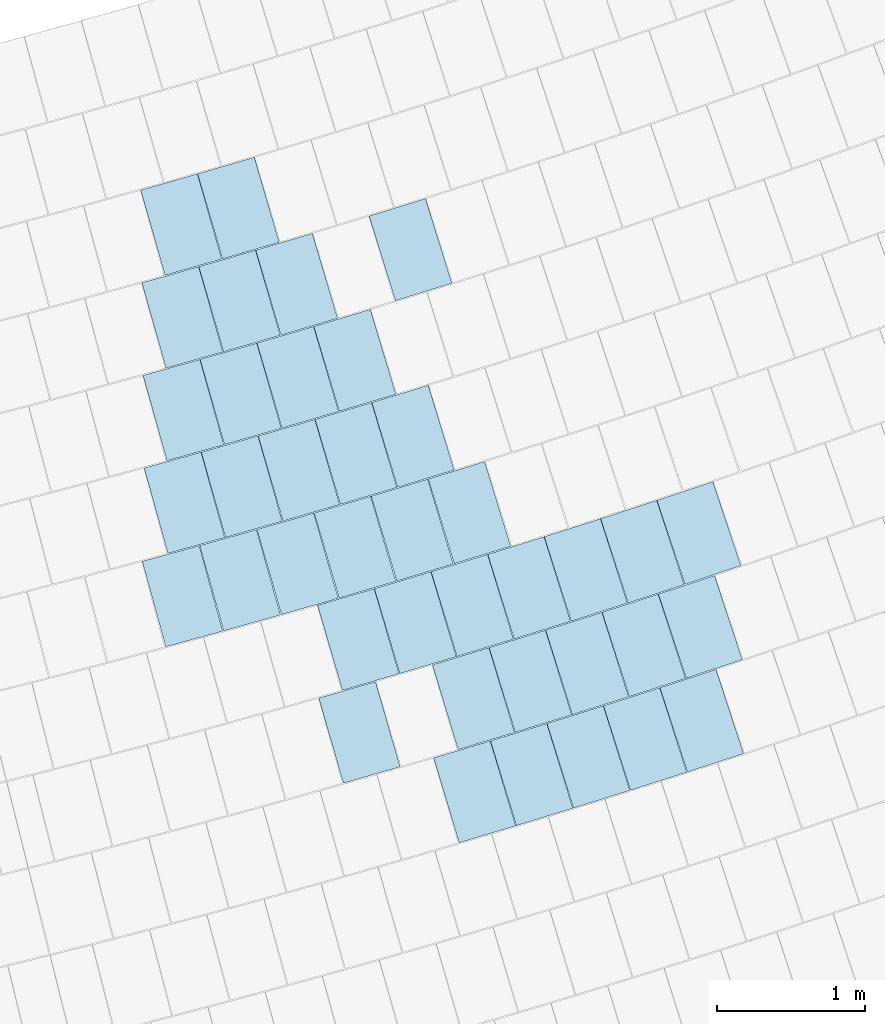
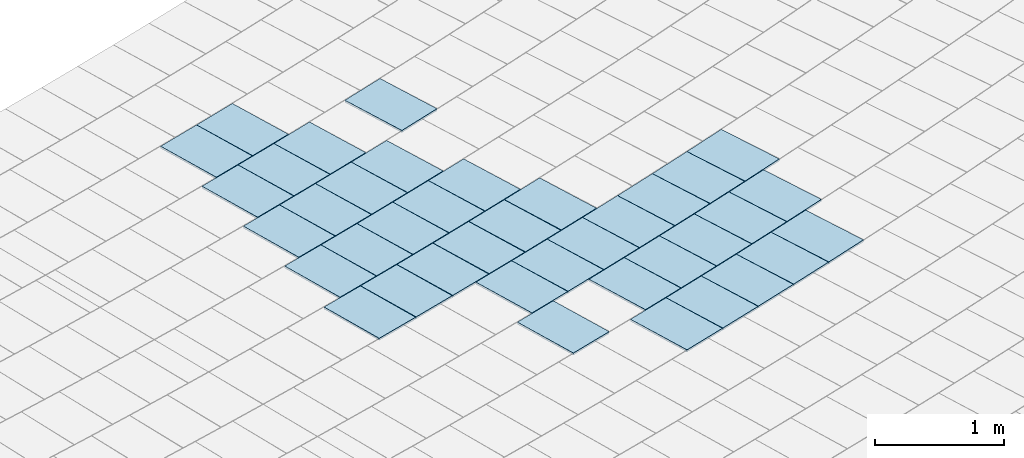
# One storey, part 61 of 438: 39 slabs.
"""IFC2X3 building model written with IfcOpenShell, lengths in millimetres."""

import ifcopenshell
import ifcopenshell.guid

model = None  # the IFC model being written
_history = None  # IfcOwnerHistory: only IFC2X3 demands one
_inside = {}  # id of a spatial element -> (the spatial element, [elements in it])
_under = {}  # id of a project, library or spatial element -> (it, [spatial elements below it])
_declared = {}  # id of a project -> (the project, [libraries it declares])
_typed = {}  # id of a type object -> (the type object, [elements of that type])
_made_of = {}  # id of a material, layer set ... -> (it, [elements and type objects made of it])


def new_model(schema):
    """Start an empty IFC model of exactly this schema.

    Asked for "IFC4X3", IfcOpenShell would pick the latest addendum, in which some entities
    have other attributes; the version numbers below select the first issue.
    IFC2X3 requires an IfcOwnerHistory on every rooted entity: one is made here for all.
    """
    global model, _history
    if schema == "IFC4X3":
        model = ifcopenshell.file(schema_version=(4, 3, 0, 0))
    else:
        model = ifcopenshell.file(schema=schema)
    _inside.clear()
    _under.clear()
    _declared.clear()
    _typed.clear()
    _made_of.clear()
    _history = None
    if model.schema == "IFC2X3":
        org = make("IfcOrganization", Name="unknown")
        user = make(
            "IfcPersonAndOrganization",
            ThePerson=make("IfcPerson", FamilyName="unknown"),
            TheOrganization=org,
        )
        app = make(
            "IfcApplication",
            ApplicationDeveloper=org,
            Version="unknown",
            ApplicationFullName="unknown",
            ApplicationIdentifier="unknown",
        )
        _history = make(
            "IfcOwnerHistory",
            OwningUser=user,
            OwningApplication=app,
            ChangeAction="ADDED",
            CreationDate=0,
        )
    return model


def make(cls, **values):
    """One entity of the class cls with the attributes given. An attribute that is None is left unset."""
    return model.create_entity(
        cls, **{name: value for name, value in values.items() if value is not None}
    )


def entity(cls, *values):
    """Any entity or typed value of the class cls, its attributes in the order of the schema. None: left unset."""
    e = model.create_entity(cls)
    for i, value in enumerate(values):
        if value is not None:
            e[i] = value
    return e


def rooted(cls, **values):
    """An entity with a GlobalId (a new one), such as an element, a storey or a relation."""
    return make(cls, GlobalId=ifcopenshell.guid.new(), OwnerHistory=_history, **values)


def si_unit(unit_type, name, prefix=None):
    """IfcSIUnit, for example si_unit("LENGTHUNIT", "METRE", prefix="MILLI")."""
    return make("IfcSIUnit", UnitType=unit_type, Prefix=prefix, Name=name)


def converted_unit(unit_type, name, factor, base, dimensions=None, offset=None):
    """IfcConversionBasedUnit, such as the inch: factor (a typed value) times the base unit."""
    return make(
        "IfcConversionBasedUnit"
        if offset is None
        else "IfcConversionBasedUnitWithOffset",
        ConversionOffset=offset,
        Dimensions=None
        if dimensions is None
        else entity("IfcDimensionalExponents", *dimensions),
        UnitType=unit_type,
        Name=name,
        ConversionFactor=make(
            "IfcMeasureWithUnit", ValueComponent=factor, UnitComponent=base
        ),
    )


def derived_unit(unit_type, elements):
    """IfcDerivedUnit: a product of units, each with its exponent."""
    return make(
        "IfcDerivedUnit",
        Elements=[
            make("IfcDerivedUnitElement", Unit=unit, Exponent=power)
            for unit, power in elements
        ],
        UnitType=unit_type,
    )


def assignment(units):
    """IfcUnitAssignment: the units of a project."""
    return None if units is None else make("IfcUnitAssignment", Units=units)


def point(xyz):
    """IfcCartesianPoint."""
    return None if xyz is None else make("IfcCartesianPoint", Coordinates=xyz)


def direction(xyz):
    """IfcDirection."""
    return None if xyz is None else make("IfcDirection", DirectionRatios=xyz)


def frame(location, z_axis=None, x_axis=None):
    """IfcAxis2Placement3D, a coordinate frame: its origin and axes. An axis left out is left unset."""
    return make(
        "IfcAxis2Placement3D",
        Location=point(location),
        Axis=direction(z_axis),
        RefDirection=direction(x_axis),
    )


def origin():
    """The frame at (0, 0, 0) with its axes left unset."""
    return frame((0.0, 0.0, 0.0))


def place(relative_to, where):
    """IfcLocalPlacement: puts the frame where relative to a parent placement (None: the world)."""
    return make(
        "IfcLocalPlacement", PlacementRelTo=relative_to, RelativePlacement=where
    )


def context(
    kind, dimensions, precision=None, world=None, true_north=None, identifier=None
):
    """IfcGeometricRepresentationContext, for example the 3D "Model" context."""
    return make(
        "IfcGeometricRepresentationContext",
        ContextIdentifier=identifier,
        ContextType=kind,
        CoordinateSpaceDimension=dimensions,
        Precision=precision,
        WorldCoordinateSystem=world,
        TrueNorth=true_north,
    )


def subcontext(parent, identifier, kind, view, scale=None):
    """IfcGeometricRepresentationSubContext, for example "Body" below "Model"."""
    return make(
        "IfcGeometricRepresentationSubContext",
        ContextIdentifier=identifier,
        ContextType=kind,
        ParentContext=parent,
        TargetScale=scale,
        TargetView=view,
    )


def project(units=None, contexts=None):
    """IfcProject with its units and contexts."""
    return rooted(
        "IfcProject",
        Name="project",
        RepresentationContexts=contexts,
        UnitsInContext=assignment(units),
    )


def spatial(cls, under=None, at=None, **own):
    """A site, building, storey or space (cls), placed at a placement, below another one or the project."""
    s = rooted(cls, ObjectPlacement=at, **own)
    if under is not None:
        _under.setdefault(under.id(), (under, []))[1].append(s)
    return s


def polyline(points):
    """IfcPolyline through the points."""
    return make("IfcPolyline", Points=[point(p) for p in points])


def outline(outer, holes=None, kind="AREA"):
    """IfcArbitraryClosedProfileDef: a profile drawn as a closed curve; with holes, ...WithVoids."""
    if holes is None:
        return make("IfcArbitraryClosedProfileDef", ProfileType=kind, OuterCurve=outer)
    return make(
        "IfcArbitraryProfileDefWithVoids",
        ProfileType=kind,
        OuterCurve=outer,
        InnerCurves=holes,
    )


def extrude(swept, where, along, depth):
    """IfcExtrudedAreaSolid: the profile swept, set in the frame where, extruded along a direction by depth."""
    return make(
        "IfcExtrudedAreaSolid",
        SweptArea=swept,
        Position=where,
        ExtrudedDirection=direction(along),
        Depth=depth,
    )


def shape(context_of_items, identifier, shape_type, items):
    """IfcShapeRepresentation: the items that make up one representation, for example the "Body"."""
    return make(
        "IfcShapeRepresentation",
        ContextOfItems=context_of_items,
        RepresentationIdentifier=identifier,
        RepresentationType=shape_type,
        Items=items,
    )


def material(Name=None, Category=None):
    """IfcMaterial."""
    return make("IfcMaterial", Name=Name, Category=Category)


def layer(
    of_material, thickness, ventilated=None, Name=None, Category=None, Priority=None
):
    """IfcMaterialLayer: one layer of a wall or slab, of a material (None: an air gap)."""
    return make(
        "IfcMaterialLayer",
        Material=of_material,
        LayerThickness=thickness,
        IsVentilated=ventilated,
        Name=Name,
        Category=Category,
        Priority=Priority,
    )


def layer_set(layers, Name=None):
    """IfcMaterialLayerSet."""
    return make("IfcMaterialLayerSet", MaterialLayers=layers, LayerSetName=Name)


def layer_usage(for_layer_set, set_direction, sense, offset, extent=None):
    """IfcMaterialLayerSetUsage: how a layer set lies in its element."""
    return make(
        "IfcMaterialLayerSetUsage",
        ForLayerSet=for_layer_set,
        LayerSetDirection=set_direction,
        DirectionSense=sense,
        OffsetFromReferenceLine=offset,
        ReferenceExtent=extent,
    )


def made_of(thing, what):
    """Note that an element or type object is made of a material, layer set ...; save() writes the relation."""
    if what is not None:
        _made_of.setdefault(what.id(), (what, []))[1].append(thing)
    return thing


def type_object(cls, material=None, **own):
    """A type object (cls), such as IfcWallType, which elements share."""
    return made_of(rooted(cls, **own), material)


def element(
    cls,
    number,
    at=None,
    inside=None,
    cuts=None,
    type_object=None,
    material=None,
    context=None,
    identifier="Body",
    shape_type=None,
    held_by="IfcProductDefinitionShape",
    body=None,
    shapes=None,
    **own,
):
    """One element of the class cls, such as IfcWall. Its Tag is "e" and its number.

    at: its placement. inside: the storey or other place that contains it. cuts: it is an
    opening in that element (IfcRelVoidsElement). A single representation is given by context,
    identifier, shape_type and body (its items); several are given by shapes. held_by: the class
    of the entity that holds the representations. save() writes the other relations.
    """
    e = rooted(cls, Tag="e%d" % number, ObjectPlacement=at, **own)
    if body is not None:
        shapes = [shape(context, identifier, shape_type, body)]
    if shapes is not None:
        e.Representation = make(held_by, Representations=shapes)
    if inside is not None:
        _inside.setdefault(inside.id(), (inside, []))[1].append(e)
    if cuts is not None:
        rooted(
            "IfcRelVoidsElement", RelatingBuildingElement=cuts, RelatedOpeningElement=e
        )
    if type_object is not None:
        _typed.setdefault(type_object.id(), (type_object, []))[1].append(e)
    return made_of(e, material)


def aggregate(whole, parts):
    """IfcRelAggregates: a whole, such as a stair, and the parts it consists of."""
    return rooted("IfcRelAggregates", RelatingObject=whole, RelatedObjects=parts)


def save(model, path):
    """Write the relations noted so far, then the file.

    IfcRelAggregates (storeys below a building ...), IfcRelContainedInSpatialStructure (elements
    in a storey), IfcRelDefinesByType, IfcRelAssociatesMaterial and IfcRelDeclares: one each for
    every whole, place, type object, material and project.
    """
    for whole, parts in _under.values():
        aggregate(whole, parts)
    for where, things in _inside.values():
        rooted(
            "IfcRelContainedInSpatialStructure",
            RelatedElements=things,
            RelatingStructure=where,
        )
    for kind, things in _typed.values():
        rooted("IfcRelDefinesByType", RelatedObjects=things, RelatingType=kind)
    for what, things in _made_of.values():
        rooted("IfcRelAssociatesMaterial", RelatedObjects=things, RelatingMaterial=what)
    for by, libraries in _declared.values():
        rooted("IfcRelDeclares", RelatingContext=by, RelatedDefinitions=libraries)
    model.write(path)


model = new_model("IFC2X3")

# Units and contexts
model_context = context("Model", 3, precision=0.01, world=origin(), true_north=direction((6.123031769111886e-17, 1.0)))
body_context = subcontext(model_context, "Body", "Model", "MODEL_VIEW")
ifc_project = project(units=[si_unit("LENGTHUNIT", "METRE", prefix="MILLI"), si_unit("AREAUNIT", "SQUARE_METRE"), si_unit("VOLUMEUNIT", "CUBIC_METRE"), converted_unit("PLANEANGLEUNIT", "DEGREE", entity("IfcRatioMeasure", 0.017453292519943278), si_unit("PLANEANGLEUNIT", "RADIAN"), dimensions=[0, 0, 0, 0, 0, 0, 0]), si_unit("MASSUNIT", "GRAM", prefix="KILO"), derived_unit("MASSDENSITYUNIT", [(si_unit("MASSUNIT", "GRAM", prefix="KILO"), 1), (si_unit("LENGTHUNIT", "METRE"), -3)]), derived_unit("MOMENTOFINERTIAUNIT", [(si_unit("LENGTHUNIT", "METRE"), 4)]), si_unit("TIMEUNIT", "SECOND"), si_unit("FREQUENCYUNIT", "HERTZ"), si_unit("THERMODYNAMICTEMPERATUREUNIT", "DEGREE_CELSIUS"), derived_unit("THERMALTRANSMITTANCEUNIT", [(si_unit("MASSUNIT", "GRAM", prefix="KILO"), 1), (si_unit("THERMODYNAMICTEMPERATUREUNIT", "KELVIN"), -1), (si_unit("TIMEUNIT", "SECOND"), -3)]), derived_unit("THERMALCONDUCTANCEUNIT", [(si_unit("MASSUNIT", "GRAM", prefix="KILO"), 1), (si_unit("LENGTHUNIT", "METRE"), 1), (si_unit("THERMODYNAMICTEMPERATUREUNIT", "KELVIN"), -1), (si_unit("TIMEUNIT", "SECOND"), -3)]), derived_unit("VOLUMETRICFLOWRATEUNIT", [(si_unit("LENGTHUNIT", "METRE"), 3), (si_unit("TIMEUNIT", "SECOND"), -1)]), derived_unit("MASSFLOWRATEUNIT", [(si_unit("MASSUNIT", "GRAM", prefix="KILO"), 1), (si_unit("TIMEUNIT", "SECOND"), -1)]), derived_unit("ROTATIONALFREQUENCYUNIT", [(si_unit("TIMEUNIT", "SECOND"), -1)]), si_unit("ELECTRICCURRENTUNIT", "AMPERE"), si_unit("ELECTRICVOLTAGEUNIT", "VOLT"), si_unit("POWERUNIT", "WATT"), converted_unit("FORCEUNIT", "KIP", entity("IfcRatioMeasure", 2.088543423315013e-05), si_unit("FORCEUNIT", "NEWTON"), dimensions=[1, 1, -2, 0, 0, 0, 0]), si_unit("ILLUMINANCEUNIT", "LUX"), si_unit("LUMINOUSFLUXUNIT", "LUMEN"), si_unit("LUMINOUSINTENSITYUNIT", "CANDELA"), derived_unit("USERDEFINED", [(si_unit("MASSUNIT", "GRAM", prefix="KILO"), -1), (si_unit("LENGTHUNIT", "METRE"), -2), (si_unit("TIMEUNIT", "SECOND"), 3), (si_unit("LUMINOUSFLUXUNIT", "LUMEN"), 1)]), derived_unit("USERDEFINED", [(si_unit("MASSUNIT", "GRAM", prefix="KILO"), 1), (si_unit("LENGTHUNIT", "METRE"), 3), (si_unit("TIMEUNIT", "SECOND"), -3), (si_unit("ELECTRICCURRENTUNIT", "AMPERE"), -2)]), derived_unit("USERDEFINED", [(si_unit("LENGTHUNIT", "METRE"), 2), (si_unit("TIMEUNIT", "SECOND"), -2)]), derived_unit("SOUNDPOWERUNIT", [(si_unit("MASSUNIT", "GRAM", prefix="KILO"), 1), (si_unit("LENGTHUNIT", "METRE"), 2), (si_unit("TIMEUNIT", "SECOND"), -3)]), derived_unit("SOUNDPRESSUREUNIT", [(si_unit("MASSUNIT", "GRAM", prefix="KILO"), 1), (si_unit("LENGTHUNIT", "METRE"), -1), (si_unit("TIMEUNIT", "SECOND"), -2)]), derived_unit("LINEARVELOCITYUNIT", [(si_unit("LENGTHUNIT", "METRE"), 1), (si_unit("TIMEUNIT", "SECOND"), -1)]), si_unit("PRESSUREUNIT", "PASCAL"), derived_unit("USERDEFINED", [(si_unit("LENGTHUNIT", "METRE"), -2), (si_unit("MASSUNIT", "GRAM", prefix="KILO"), 1), (si_unit("TIMEUNIT", "SECOND"), -2)]), derived_unit("LINEARFORCEUNIT", [(si_unit("MASSUNIT", "GRAM", prefix="KILO"), 1), (si_unit("LENGTHUNIT", "METRE"), 1), (si_unit("TIMEUNIT", "SECOND"), -2), (si_unit("LENGTHUNIT", "METRE"), -1)]), derived_unit("PLANARFORCEUNIT", [(si_unit("MASSUNIT", "GRAM", prefix="KILO"), 1), (si_unit("LENGTHUNIT", "METRE"), 1), (si_unit("TIMEUNIT", "SECOND"), -2), (si_unit("LENGTHUNIT", "METRE"), -2)]), derived_unit("SPECIFICHEATCAPACITYUNIT", [(si_unit("LENGTHUNIT", "METRE"), 2), (si_unit("TIMEUNIT", "SECOND"), -2), (si_unit("THERMODYNAMICTEMPERATUREUNIT", "KELVIN"), -1)]), derived_unit("VAPORPERMEABILITYUNIT", [(si_unit("TIMEUNIT", "SECOND"), 1), (si_unit("LENGTHUNIT", "METRE"), -1)]), derived_unit("DYNAMICVISCOSITYUNIT", [(si_unit("MASSUNIT", "GRAM", prefix="KILO"), 1), (si_unit("LENGTHUNIT", "METRE"), -1), (si_unit("TIMEUNIT", "SECOND"), -1)]), derived_unit("THERMALEXPANSIONCOEFFICIENTUNIT", [(si_unit("THERMODYNAMICTEMPERATUREUNIT", "KELVIN"), -1)])], contexts=[model_context])

# Site, building, storey
site_placement = place(None, frame((0.0, 0.0, 0.0), z_axis=(0.0, 0.0, 1.0), x_axis=(0.8191520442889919, 0.5735764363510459, 0.0)))
site = spatial("IfcSite", under=ifc_project, at=site_placement, Name="Default", CompositionType="ELEMENT")
building_placement = place(site_placement, origin())
building = spatial("IfcBuilding", under=site, at=building_placement, CompositionType="ELEMENT")
storey_placement = place(building_placement, origin())
storey = spatial("IfcBuildingStorey", under=building, at=storey_placement, Name="PLAN", CompositionType="ELEMENT", Elevation=0.0)

# Slabs
ifc_material = material(Name="Paint-01")
ifc_layer = layer(ifc_material, 20.00000000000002)
ifc_layer_set = layer_set([ifc_layer], Name="Floor:Slab-179:1000")
ifc_layer_usage = layer_usage(ifc_layer_set, "AXIS3", "POSITIVE", 0.0)
slab_type = type_object("IfcSlabType", Name="Floor:Slab-179:1000", PredefinedType="FLOOR", material=ifc_layer_set)
slab_1_placement = place(storey_placement, origin())
element("IfcSlab", 1, at=slab_1_placement, inside=storey, type_object=slab_type, material=ifc_layer_usage, Name="Floor:Slab-179:1000", ObjectType="Floor:Slab-179:1000", PredefinedType="FLOOR", context=body_context, shape_type="SweptSolid", body=[
    extrude(outline(polyline([(-300.0000010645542, -200.00000294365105), (299.9999989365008, -200.00000294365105), (300.0000010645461, 200.0000029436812), (-299.99999893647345, 200.00000294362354), (-300.0000010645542, -200.00000294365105)])), frame((-59989.401130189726, -126128.34752356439, 20.0), z_axis=(0.0, 0.0, -1.0), x_axis=(-0.32023587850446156, -0.9473378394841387, 0.0)), (0.0, 0.0, 1.0), 20.00000000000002),
])
slab_2_placement = place(storey_placement, origin())
element("IfcSlab", 2, at=slab_2_placement, inside=storey, type_object=slab_type, material=ifc_layer_usage, Name="Floor:Slab-179:1000", ObjectType="Floor:Slab-179:1000", PredefinedType="FLOOR", context=body_context, shape_type="SweptSolid", body=[
    extrude(outline(polyline([(-300.00000106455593, -200.00000294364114), (299.9999989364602, -200.0000029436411), (300.0000010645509, 200.00000294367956), (-299.9999989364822, 200.0000029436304), (-300.00000106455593, -200.00000294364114)])), frame((-60369.77105779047, -125998.3796156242, 20.0), z_axis=(0.0, 0.0, -1.0), x_axis=(-0.3264293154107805, -0.945221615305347, 0.0)), (0.0, 0.0, 1.0), 20.000000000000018),
])
slab_3_placement = place(storey_placement, origin())
element("IfcSlab", 3, at=slab_3_placement, inside=storey, type_object=slab_type, material=ifc_layer_usage, Name="Floor:Slab-179:1000", ObjectType="Floor:Slab-179:1000", PredefinedType="FLOOR", context=body_context, shape_type="SweptSolid", body=[
    extrude(outline(polyline([(-300.0000010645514, -200.00000294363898), (299.99999893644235, -200.00000294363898), (300.0000010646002, 200.00000294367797), (-299.99999893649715, 200.0000029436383), (-300.0000010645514, -200.00000294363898)])), frame((-59198.32049391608, -127025.24854212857, 20.0), z_axis=(0.0, 0.0, -1.0), x_axis=(-0.30435675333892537, -0.9525581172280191, 0.0)), (0.0, 0.0, 1.0), 20.00000000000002),
])
slab_4_placement = place(storey_placement, origin())
element("IfcSlab", 4, at=slab_4_placement, inside=storey, type_object=slab_type, material=ifc_layer_usage, Name="Floor:Slab-179:1000", ObjectType="Floor:Slab-179:1000", PredefinedType="FLOOR", context=body_context, shape_type="SweptSolid", body=[
    extrude(outline(polyline([(-300.00000106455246, -200.00000294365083), (299.9999989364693, -200.0000029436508), (300.0000010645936, 200.0000029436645), (-299.9999989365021, 200.000002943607), (-300.00000106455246, -200.00000294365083)])), frame((-59962.461290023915, -126775.62470873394, 20.0), z_axis=(0.0, 0.0, -1.0), x_axis=(-0.31667763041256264, -0.9485332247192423, 0.0)), (0.0, 0.0, 1.0), 20.00000000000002),
])
slab_5_placement = place(storey_placement, origin())
element("IfcSlab", 5, at=slab_5_placement, inside=storey, type_object=slab_type, material=ifc_layer_usage, Name="Floor:Slab-179:1000", ObjectType="Floor:Slab-179:1000", PredefinedType="FLOOR", context=body_context, shape_type="SweptSolid", body=[
    extrude(outline(polyline([(-300.0000010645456, -200.0000029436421), (299.99999893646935, -200.00000294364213), (300.00000106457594, 200.00000294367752), (-299.99999893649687, 200.00000294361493), (-300.0000010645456, -200.0000029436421)])), frame((-60343.302320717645, -126647.10385685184, 20.0), z_axis=(0.0, 0.0, -1.0), x_axis=(-0.322818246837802, -0.9464609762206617, 0.0)), (0.0, 0.0, 1.0), 20.000000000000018),
])
slab_6_placement = place(storey_placement, origin())
element("IfcSlab", 6, at=slab_6_placement, inside=storey, type_object=slab_type, material=ifc_layer_usage, Name="Floor:Slab-179:1000", ObjectType="Floor:Slab-179:1000", PredefinedType="FLOOR", context=body_context, shape_type="SweptSolid", body=[
    extrude(outline(polyline([(-300.00000106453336, -200.00000294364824), (299.99999893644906, -200.0000029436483), (300.0000010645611, 200.0000029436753), (-299.9999989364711, 200.00000294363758), (-300.00000106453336, -200.00000294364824)])), frame((-60723.30243382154, -126516.11754432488, 20.0), z_axis=(0.0, 0.0, -1.0), x_axis=(-0.3289453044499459, -0.9443489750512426, 0.0)), (0.0, 0.0, 1.0), 20.00000000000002),
])
slab_7_placement = place(storey_placement, origin())
element("IfcSlab", 7, at=slab_7_placement, inside=storey, type_object=slab_type, material=ifc_layer_usage, Name="Floor:Slab-179:1000", ObjectType="Floor:Slab-179:1000", PredefinedType="FLOOR", context=body_context, shape_type="SweptSolid", body=[
    extrude(outline(polyline([(-300.0000010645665, -200.0000029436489), (299.9999989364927, -200.0000029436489), (300.00000106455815, 200.00000294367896), (-299.9999989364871, 200.00000294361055), (-300.0000010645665, -200.0000029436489)])), frame((-59935.27077385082, -127422.0821879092, 20.0), z_axis=(0.0, 0.0, -1.0), x_axis=(-0.31318412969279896, -0.949692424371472, 0.0)), (0.0, 0.0, 1.0), 20.000000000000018),
])
slab_8_placement = place(storey_placement, origin())
element("IfcSlab", 8, at=slab_8_placement, inside=storey, type_object=slab_type, material=ifc_layer_usage, Name="Floor:Slab-179:1000", ObjectType="Floor:Slab-179:1000", PredefinedType="FLOOR", context=body_context, shape_type="SweptSolid", body=[
    extrude(outline(polyline([(-300.0000010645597, -200.00000294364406), (299.9999989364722, -200.00000294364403), (300.00000106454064, 200.00000294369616), (-299.999998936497, 200.00000294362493), (-300.0000010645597, -200.00000294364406)])), frame((-60316.56841578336, -127294.981953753, 20.0), z_axis=(0.0, 0.0, -1.0), x_axis=(-0.31927271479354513, -0.9476628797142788, 0.0)), (0.0, 0.0, 1.0), 20.000000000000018),
])
slab_9_placement = place(storey_placement, origin())
element("IfcSlab", 9, at=slab_9_placement, inside=storey, type_object=slab_type, material=ifc_layer_usage, Name="Floor:Slab-179:1000", ObjectType="Floor:Slab-179:1000", PredefinedType="FLOOR", context=body_context, shape_type="SweptSolid", body=[
    extrude(outline(polyline([(-300.000001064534, -200.00000294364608), (299.99999893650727, -200.00000294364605), (300.0000010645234, 200.0000029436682), (-299.9999989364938, 200.00000294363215), (-300.000001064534, -200.00000294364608)])), frame((-61076.67731809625, -127033.45327889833, 20.0), z_axis=(0.0, 0.0, -1.0), x_axis=(-0.3314101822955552, -0.9434867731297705, 0.0)), (0.0, 0.0, 1.0), 20.00000000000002),
])
slab_10_placement = place(storey_placement, origin())
element("IfcSlab", 10, at=slab_10_placement, inside=storey, type_object=slab_type, material=ifc_layer_usage, Name="Floor:Slab-179:1000", ObjectType="Floor:Slab-179:1000", PredefinedType="FLOOR", context=body_context, shape_type="SweptSolid", body=[
    extrude(outline(polyline([(-300.00000106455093, -200.00000294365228), (299.9999989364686, -200.00000294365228), (300.00000106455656, 200.00000294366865), (-299.9999989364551, 200.00000294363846), (-300.00000106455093, -200.00000294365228)])), frame((-60697.04248776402, -127165.43720543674, 20.0), z_axis=(0.0, 0.0, -1.0), x_axis=(-0.3253481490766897, -0.9455943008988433, 0.0)), (0.0, 0.0, 1.0), 20.000000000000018),
])
slab_11_placement = place(storey_placement, origin())
element("IfcSlab", 11, at=slab_11_placement, inside=storey, type_object=slab_type, material=ifc_layer_usage, Name="Floor:Slab-179:1000", ObjectType="Floor:Slab-179:1000", PredefinedType="FLOOR", context=body_context, shape_type="SweptSolid", body=[
    extrude(outline(polyline([(-300.000001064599, -200.0000029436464), (299.9999989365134, -200.00000294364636), (300.00000106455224, 200.00000294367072), (-299.9999989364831, 200.00000294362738), (-300.000001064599, -200.0000029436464)])), frame((-59907.83975651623, -128067.74274855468, 20.0), z_axis=(0.0, 0.0, -1.0), x_axis=(-0.30975367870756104, -0.950816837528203, 0.0)), (0.0, 0.0, 1.0), 20.000000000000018),
])
slab_12_placement = place(storey_placement, origin())
element("IfcSlab", 12, at=slab_12_placement, inside=storey, type_object=slab_type, material=ifc_layer_usage, Name="Floor:Slab-179:1000", ObjectType="Floor:Slab-179:1000", PredefinedType="FLOOR", context=body_context, shape_type="SweptSolid", body=[
    extrude(outline(polyline([(-300.0000010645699, -200.00000294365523), (299.99999893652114, -200.00000294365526), (300.000001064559, 200.00000294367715), (-299.99999893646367, 200.0000029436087), (-300.0000010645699, -200.00000294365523)])), frame((-60289.58008285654, -127942.03738984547, 20.0), z_axis=(0.0, 0.0, -1.0), x_axis=(-0.3157910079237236, -0.9488287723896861, 0.0)), (0.0, 0.0, 1.0), 20.00000000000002),
])
slab_13_placement = place(storey_placement, origin())
element("IfcSlab", 13, at=slab_13_placement, inside=storey, type_object=slab_type, material=ifc_layer_usage, Name="Floor:Slab-179:1000", ObjectType="Floor:Slab-179:1000", PredefinedType="FLOOR", context=body_context, shape_type="SweptSolid", body=[
    extrude(outline(polyline([(-300.0000010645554, -200.0000029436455), (299.99999893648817, -200.00000294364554), (300.00000106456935, 200.00000294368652), (-299.99999893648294, 200.00000294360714), (-300.0000010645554, -200.0000029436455)])), frame((-60670.51368870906, -127813.90815081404, 20.0), z_axis=(0.0, 0.0, -1.0), x_axis=(-0.3218155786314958, -0.9468023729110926, 0.0)), (0.0, 0.0, 1.0), 20.00000000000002),
])
slab_14_placement = place(storey_placement, origin())
element("IfcSlab", 14, at=slab_14_placement, inside=storey, type_object=slab_type, material=ifc_layer_usage, Name="Floor:Slab-179:1000", ObjectType="Floor:Slab-179:1000", PredefinedType="FLOOR", context=body_context, shape_type="SweptSolid", body=[
    extrude(outline(polyline([(-300.00000106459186, -200.00000294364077), (299.99999893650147, -200.00000294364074), (300.0000010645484, 200.00000294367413), (-299.9999989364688, 200.0000029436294), (-300.00000106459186, -200.00000294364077)])), frame((-61050.62518369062, -127683.36020810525, 20.0), z_axis=(0.0, 0.0, -1.0), x_axis=(-0.3278271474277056, -0.9447377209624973, 0.0)), (0.0, 0.0, 1.0), 20.00000000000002),
])
slab_15_placement = place(storey_placement, origin())
element("IfcSlab", 15, at=slab_15_placement, inside=storey, type_object=slab_type, material=ifc_layer_usage, Name="Floor:Slab-179:1000", ObjectType="Floor:Slab-179:1000", PredefinedType="FLOOR", context=body_context, shape_type="SweptSolid", body=[
    extrude(outline(polyline([(-300.00000106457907, -200.0000029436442), (299.99999893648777, -200.00000294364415), (300.0000010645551, 200.00000294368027), (-299.99999893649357, 200.00000294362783), (-300.00000106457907, -200.0000029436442)])), frame((-61429.899210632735, -127550.39883608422, 20.0), z_axis=(0.0, 0.0, -1.0), x_axis=(-0.33382547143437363, -0.9426348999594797, 0.0)), (0.0, 0.0, 1.0), 20.000000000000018),
])
slab_16_placement = place(storey_placement, origin())
element("IfcSlab", 16, at=slab_16_placement, inside=storey, type_object=slab_type, material=ifc_layer_usage, Name="Floor:Slab-179:1000", ObjectType="Floor:Slab-179:1000", PredefinedType="FLOOR", context=body_context, shape_type="SweptSolid", body=[
    extrude(outline(polyline([(-300.0000010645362, -200.00000294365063), (299.9999989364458, -200.00000294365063), (300.0000010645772, 200.00000294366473), (-299.9999989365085, 200.00000294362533), (-300.0000010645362, -200.00000294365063)])), frame((-59891.211144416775, -128709.07605098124, 20.0), z_axis=(0.0, 0.0, -1.0), x_axis=(-0.30655747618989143, -0.951852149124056, 0.0)), (0.0, 0.0, 1.0), 20.00000000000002),
])
slab_17_placement = place(storey_placement, origin())
element("IfcSlab", 17, at=slab_17_placement, inside=storey, type_object=slab_type, material=ifc_layer_usage, Name="Floor:Slab-179:1000", ObjectType="Floor:Slab-179:1000", PredefinedType="FLOOR", context=body_context, shape_type="SweptSolid", body=[
    extrude(outline(polyline([(-300.000001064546, -200.00000294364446), (299.9999989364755, -200.00000294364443), (300.0000010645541, 200.00000294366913), (-299.99999893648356, 200.00000294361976), (-300.000001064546, -200.00000294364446)])), frame((-60275.193227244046, -128584.06729704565, 20.0), z_axis=(0.0, 0.0, -1.0), x_axis=(-0.312572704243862, -0.9498938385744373, 0.0)), (0.0, 0.0, 1.0), 20.00000000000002),
])
slab_18_placement = place(storey_placement, origin())
element("IfcSlab", 18, at=slab_18_placement, inside=storey, type_object=slab_type, material=ifc_layer_usage, Name="Floor:Slab-179:1000", ObjectType="Floor:Slab-179:1000", PredefinedType="FLOOR", context=body_context, shape_type="SweptSolid", body=[
    extrude(outline(polyline([(-300.0000010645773, -200.00000294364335), (299.9999989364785, -200.00000294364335), (300.0000010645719, 200.00000294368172), (-299.999998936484, 200.00000294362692), (-300.0000010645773, -200.00000294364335)])), frame((-60658.376828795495, -128456.63199583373, 20.0), z_axis=(0.0, 0.0, -1.0), x_axis=(-0.3185754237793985, -0.9478975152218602, 0.0)), (0.0, 0.0, 1.0), 20.00000000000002),
])
slab_19_placement = place(storey_placement, origin())
element("IfcSlab", 19, at=slab_19_placement, inside=storey, type_object=slab_type, material=ifc_layer_usage, Name="Floor:Slab-179:1000", ObjectType="Floor:Slab-179:1000", PredefinedType="FLOOR", context=body_context, shape_type="SweptSolid", body=[
    extrude(outline(polyline([(-300.0000010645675, -200.00000294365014), (299.99999893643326, -200.00000294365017), (300.00000106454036, 200.00000294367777), (-299.99999893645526, 200.00000294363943), (-300.0000010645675, -200.00000294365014)])), frame((-61040.74661484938, -128326.77524704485, 20.0), z_axis=(0.0, 0.0, -1.0), x_axis=(-0.3245653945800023, -0.9458632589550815, 0.0)), (0.0, 0.0, 1.0), 20.000000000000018),
])
slab_20_placement = place(storey_placement, origin())
element("IfcSlab", 20, at=slab_20_placement, inside=storey, type_object=slab_type, material=ifc_layer_usage, Name="Floor:Slab-179:1000", ObjectType="Floor:Slab-179:1000", PredefinedType="FLOOR", context=body_context, shape_type="SweptSolid", body=[
    extrude(outline(polyline([(-300.0000010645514, -200.00000294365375), (299.9999989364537, -200.00000294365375), (300.0000010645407, 200.00000294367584), (-299.9999989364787, 200.00000294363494), (-300.0000010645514, -200.00000294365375)])), frame((-61422.28728375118, -128194.50224727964, 20.0), z_axis=(0.0, 0.0, -1.0), x_axis=(-0.33054237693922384, -0.9437911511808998, 0.0)), (0.0, 0.0, 1.0), 20.00000000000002),
])
slab_21_placement = place(storey_placement, origin())
element("IfcSlab", 21, at=slab_21_placement, inside=storey, type_object=slab_type, material=ifc_layer_usage, Name="Floor:Slab-179:1000", ObjectType="Floor:Slab-179:1000", PredefinedType="FLOOR", context=body_context, shape_type="SweptSolid", body=[
    extrude(outline(polyline([(-300.00000106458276, -200.00000294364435), (299.99999893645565, -200.0000029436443), (300.00000106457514, 200.00000294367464), (-299.99999893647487, 200.000002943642), (-300.00000106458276, -200.00000294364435)])), frame((-61802.98356702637, -128059.81828983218, 20.0), z_axis=(0.0, 0.0, -1.0), x_axis=(-0.33650613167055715, -0.941681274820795, 0.0)), (0.0, 0.0, 1.0), 20.00000000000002),
])
slab_22_placement = place(storey_placement, origin())
element("IfcSlab", 22, at=slab_22_placement, inside=storey, type_object=slab_type, material=ifc_layer_usage, Name="Floor:Slab-179:1000", ObjectType="Floor:Slab-179:1000", PredefinedType="FLOOR", context=body_context, shape_type="SweptSolid", body=[
    extrude(outline(polyline([(-300.0000010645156, -200.00000294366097), (299.9999989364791, -200.000002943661), (300.0000010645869, 200.00000294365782), (-299.99999893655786, 200.00000294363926), (-300.0000010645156, -200.00000294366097)])), frame((-58700.04653206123, -129711.37660296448, 20.0), z_axis=(0.0, 0.0, -1.0), x_axis=(-0.2852235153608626, -0.9584610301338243, 0.0)), (0.0, 0.0, 1.0), 20.00000000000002),
])
slab_23_placement = place(storey_placement, origin())
element("IfcSlab", 23, at=slab_23_placement, inside=storey, type_object=slab_type, material=ifc_layer_usage, Name="Floor:Slab-179:1000", ObjectType="Floor:Slab-179:1000", PredefinedType="FLOOR", context=body_context, shape_type="SweptSolid", body=[
    extrude(outline(polyline([(-300.00000106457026, -200.00000294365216), (299.9999989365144, -200.00000294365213), (300.0000010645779, 200.000002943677), (-299.99999893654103, 200.00000294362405), (-300.00000106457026, -200.00000294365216)])), frame((-59084.866492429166, -129595.56529640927, 20.0), z_axis=(0.0, 0.0, -1.0), x_axis=(-0.2911952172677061, -0.9566636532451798, 0.0)), (0.0, 0.0, 1.0), 20.00000000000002),
])
slab_24_placement = place(storey_placement, origin())
element("IfcSlab", 24, at=slab_24_placement, inside=storey, type_object=slab_type, material=ifc_layer_usage, Name="Floor:Slab-179:1000", ObjectType="Floor:Slab-179:1000", PredefinedType="FLOOR", context=body_context, shape_type="SweptSolid", body=[
    extrude(outline(polyline([(-300.000001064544, -200.00000294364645), (299.9999989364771, -200.00000294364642), (300.0000010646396, 200.00000294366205), (-299.99999893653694, 200.0000029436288), (-300.000001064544, -200.00000294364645)])), frame((-59468.95673584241, -129477.35639006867, 20.0), z_axis=(0.0, 0.0, -1.0), x_axis=(-0.2971555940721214, -0.9548290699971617, 0.0)), (0.0, 0.0, 1.0), 20.00000000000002),
])
slab_25_placement = place(storey_placement, origin())
element("IfcSlab", 25, at=slab_25_placement, inside=storey, type_object=slab_type, material=ifc_layer_usage, Name="Floor:Slab-179:1000", ObjectType="Floor:Slab-179:1000", PredefinedType="FLOOR", context=body_context, shape_type="SweptSolid", body=[
    extrude(outline(polyline([(-300.00000106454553, -200.0000029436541), (299.9999989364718, -200.0000029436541), (300.00000106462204, 200.0000029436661), (-299.9999989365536, 200.00000294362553), (-300.00000106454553, -200.0000029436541)])), frame((-59852.30232434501, -129356.75448129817, 20.0), z_axis=(0.0, 0.0, -1.0), x_axis=(-0.3031044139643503, -0.9529573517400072, 0.0)), (0.0, 0.0, 1.0), 20.00000000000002),
])
slab_26_placement = place(storey_placement, origin())
element("IfcSlab", 26, at=slab_26_placement, inside=storey, type_object=slab_type, material=ifc_layer_usage, Name="Floor:Slab-179:1000", ObjectType="Floor:Slab-179:1000", PredefinedType="FLOOR", context=body_context, shape_type="SweptSolid", body=[
    extrude(outline(polyline([(-300.00000106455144, -200.0000029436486), (299.9999989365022, -200.00000294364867), (300.0000010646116, 200.00000294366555), (-299.99999893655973, 200.00000294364), (-300.00000106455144, -200.0000029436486)])), frame((-60234.88834894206, -129233.76426052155, 20.0), z_axis=(0.0, 0.0, -1.0), x_axis=(-0.3090414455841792, -0.9510485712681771, 0.0)), (0.0, 0.0, 1.0), 20.00000000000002),
])
slab_27_placement = place(storey_placement, origin())
element("IfcSlab", 27, at=slab_27_placement, inside=storey, type_object=slab_type, material=ifc_layer_usage, Name="Floor:Slab-179:1000", ObjectType="Floor:Slab-179:1000", PredefinedType="FLOOR", context=body_context, shape_type="SweptSolid", body=[
    extrude(outline(polyline([(-300.00000106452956, -200.0000029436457), (299.9999989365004, -200.0000029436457), (300.00000106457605, 200.0000029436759), (-299.9999989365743, 200.00000294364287), (-300.00000106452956, -200.0000029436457)])), frame((-60616.69993017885, -129108.3905110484, 20.0), z_axis=(0.0, 0.0, -1.0), x_axis=(-0.3149664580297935, -0.9491028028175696, 0.0)), (0.0, 0.0, 1.0), 20.000000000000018),
])
slab_28_placement = place(storey_placement, origin())
element("IfcSlab", 28, at=slab_28_placement, inside=storey, type_object=slab_type, material=ifc_layer_usage, Name="Floor:Slab-179:1000", ObjectType="Floor:Slab-179:1000", PredefinedType="FLOOR", context=body_context, shape_type="SweptSolid", body=[
    extrude(outline(polyline([(-300.00000106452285, -200.00000294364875), (299.999998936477, -200.00000294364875), (300.00000106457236, 200.0000029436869), (-299.9999989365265, 200.00000294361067), (-300.00000106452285, -200.00000294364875)])), frame((-60997.722218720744, -128980.63810888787, 20.0), z_axis=(0.0, 0.0, -1.0), x_axis=(-0.3208792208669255, -0.9471201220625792, 0.0)), (0.0, 0.0, 1.0), 20.000000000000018),
])
slab_29_placement = place(storey_placement, origin())
element("IfcSlab", 29, at=slab_29_placement, inside=storey, type_object=slab_type, material=ifc_layer_usage, Name="Floor:Slab-179:1000", ObjectType="Floor:Slab-179:1000", PredefinedType="FLOOR", context=body_context, shape_type="SweptSolid", body=[
    extrude(outline(polyline([(-300.00000106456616, -200.0000029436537), (299.99999893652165, -200.00000294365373), (300.00000106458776, 200.0000029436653), (-299.99999893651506, 200.00000294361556), (-300.00000106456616, -200.0000029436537)])), frame((-59055.99958402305, -130236.38588310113, 20.0), z_axis=(0.0, 0.0, -1.0), x_axis=(-0.2880142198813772, -0.9576261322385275, 0.0)), (0.0, 0.0, 1.0), 20.000000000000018),
])
slab_30_placement = place(storey_placement, origin())
element("IfcSlab", 30, at=slab_30_placement, inside=storey, type_object=slab_type, material=ifc_layer_usage, Name="Floor:Slab-179:1000", ObjectType="Floor:Slab-179:1000", PredefinedType="FLOOR", context=body_context, shape_type="SweptSolid", body=[
    extrude(outline(polyline([(-300.0000010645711, -200.00000294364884), (299.99999893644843, -200.00000294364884), (300.00000106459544, 200.00000294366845), (-299.99999893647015, 200.00000294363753), (-300.0000010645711, -200.00000294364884)])), frame((-59824.198176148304, -130000.15862924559, 20.0), z_axis=(0.0, 0.0, -1.0), x_axis=(-0.29982448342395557, -0.9539943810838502, 0.0)), (0.0, 0.0, 1.0), 20.00000000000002),
])
slab_31_placement = place(storey_placement, origin())
element("IfcSlab", 31, at=slab_31_placement, inside=storey, type_object=slab_type, material=ifc_layer_usage, Name="Floor:Slab-179:1000", ObjectType="Floor:Slab-179:1000", PredefinedType="FLOOR", context=body_context, shape_type="SweptSolid", body=[
    extrude(outline(polyline([(-300.0000010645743, -200.0000029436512), (299.9999989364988, -200.00000294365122), (300.0000010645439, 200.00000294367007), (-299.9999989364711, 200.0000029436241), (-300.0000010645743, -200.0000029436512)])), frame((-60207.188251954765, -129878.49005961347, 20.0), z_axis=(0.0, 0.0, -1.0), x_axis=(-0.30571256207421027, -0.9521238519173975, 0.0)), (0.0, 0.0, 1.0), 20.00000000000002),
])
slab_32_placement = place(storey_placement, origin())
element("IfcSlab", 32, at=slab_32_placement, inside=storey, type_object=slab_type, material=ifc_layer_usage, Name="Floor:Slab-179:1000", ObjectType="Floor:Slab-179:1000", PredefinedType="FLOOR", context=body_context, shape_type="SweptSolid", body=[
    extrude(outline(polyline([(-300.00000106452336, -200.0000029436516), (299.999998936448, -200.0000029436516), (300.000001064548, 200.0000029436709), (-299.9999989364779, 200.00000294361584), (-300.00000106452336, -200.0000029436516)])), frame((-60589.419347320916, -129754.45768989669, 20.0), z_axis=(0.0, 0.0, -1.0), x_axis=(-0.3115889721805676, -0.9502169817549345, 0.0)), (0.0, 0.0, 1.0), 20.00000000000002),
])
slab_33_placement = place(storey_placement, origin())
element("IfcSlab", 33, at=slab_33_placement, inside=storey, type_object=slab_type, material=ifc_layer_usage, Name="Floor:Slab-179:1000", ObjectType="Floor:Slab-179:1000", PredefinedType="FLOOR", context=body_context, shape_type="SweptSolid", body=[
    extrude(outline(polyline([(-300.00000106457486, -200.00000294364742), (299.9999989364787, -200.00000294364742), (300.0000010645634, 200.00000294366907), (-299.99999893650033, 200.00000294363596), (-300.00000106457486, -200.00000294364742)])), frame((-59440.463738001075, -130119.45875490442, 20.0), z_axis=(0.0, 0.0, -1.0), x_axis=(-0.2939249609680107, -0.9558284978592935, 0.0)), (0.0, 0.0, 1.0), 20.00000000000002),
])
slab_34_placement = place(storey_placement, origin())
element("IfcSlab", 34, at=slab_34_placement, inside=storey, type_object=slab_type, material=ifc_layer_usage, Name="Floor:Slab-179:1000", ObjectType="Floor:Slab-179:1000", PredefinedType="FLOOR", context=body_context, shape_type="SweptSolid", body=[
    extrude(outline(polyline([(-300.00000106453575, -200.00000294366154), (299.9999989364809, -200.00000294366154), (300.0000010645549, 200.00000294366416), (-299.99999893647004, 200.00000294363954), (-300.00000106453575, -200.00000294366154)])), frame((-61351.54626973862, -129499.3205766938, 20.0), z_axis=(0.0, 0.0, -1.0), x_axis=(-0.32330589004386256, -0.9462945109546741, 0.0)), (0.0, 0.0, 1.0), 20.00000000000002),
])
slab_35_placement = place(storey_placement, origin())
element("IfcSlab", 35, at=slab_35_placement, inside=storey, type_object=slab_type, material=ifc_layer_usage, Name="Floor:Slab-179:1000", ObjectType="Floor:Slab-179:1000", PredefinedType="FLOOR", context=body_context, shape_type="SweptSolid", body=[
    extrude(outline(polyline([(-300.00000106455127, -200.00000294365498), (299.99999893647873, -200.00000294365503), (300.0000010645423, 200.0000029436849), (-299.99999893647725, 200.00000294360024), (-300.00000106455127, -200.00000294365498)])), frame((-59411.78562630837, -130760.86470064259, 20.0), z_axis=(0.0, 0.0, -1.0), x_axis=(-0.29077945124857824, -0.95679010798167, 0.0)), (0.0, 0.0, 1.0), 20.00000000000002),
])
slab_36_placement = place(storey_placement, origin())
element("IfcSlab", 36, at=slab_36_placement, inside=storey, type_object=slab_type, material=ifc_layer_usage, Name="Floor:Slab-179:1000", ObjectType="Floor:Slab-179:1000", PredefinedType="FLOOR", context=body_context, shape_type="SweptSolid", body=[
    extrude(outline(polyline([(-300.0000010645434, -200.00000294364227), (299.9999989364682, -200.00000294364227), (300.0000010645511, 200.0000029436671), (-299.99999893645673, 200.00000294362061), (-300.0000010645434, -200.00000294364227)])), frame((-59795.897399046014, -130642.84341743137, 20.0), z_axis=(0.0, 0.0, -1.0), x_axis=(-0.2966303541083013, -0.9549923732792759, 0.0)), (0.0, 0.0, 1.0), 20.00000000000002),
])
slab_37_placement = place(storey_placement, origin())
element("IfcSlab", 37, at=slab_37_placement, inside=storey, type_object=slab_type, material=ifc_layer_usage, Name="Floor:Slab-179:1000", ObjectType="Floor:Slab-179:1000", PredefinedType="FLOOR", context=body_context, shape_type="SweptSolid", body=[
    extrude(outline(polyline([(-300.00000106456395, -200.000002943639), (299.9999989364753, -200.000002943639), (300.0000010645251, 200.00000294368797), (-299.99999893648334, 200.0000029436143), (-300.00000106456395, -200.000002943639)])), frame((-60561.91783033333, -130399.75874423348, 20.0), z_axis=(0.0, 0.0, -1.0), x_axis=(-0.308298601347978, -0.9512896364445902, 0.0)), (0.0, 0.0, 1.0), 20.00000000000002),
])
slab_38_placement = place(storey_placement, origin())
element("IfcSlab", 38, at=slab_38_placement, inside=storey, type_object=slab_type, material=ifc_layer_usage, Name="Floor:Slab-179:1000", ObjectType="Floor:Slab-179:1000", PredefinedType="FLOOR", context=body_context, shape_type="SweptSolid", body=[
    extrude(outline(polyline([(-300.00000106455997, -200.00000294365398), (299.9999989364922, -200.000002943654), (300.00000106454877, 200.00000294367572), (-299.9999989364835, 200.000002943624), (-300.00000106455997, -200.00000294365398)])), frame((-60179.27958818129, -130522.47326207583, 20.0), z_axis=(0.0, 0.0, -1.0), x_axis=(-0.30247014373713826, -0.9531588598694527, 0.0)), (0.0, 0.0, 1.0), 20.00000000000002),
])
slab_39_placement = place(storey_placement, origin())
element("IfcSlab", 39, at=slab_39_placement, inside=storey, type_object=slab_type, material=ifc_layer_usage, Name="Floor:Slab-179:1000", ObjectType="Floor:Slab-179:1000", PredefinedType="FLOOR", context=body_context, shape_type="SweptSolid", body=[
    extrude(outline(polyline([(-300.000001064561, -200.00000294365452), (299.9999989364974, -200.00000294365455), (300.0000010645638, 200.00000294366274), (-299.99999893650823, 200.0000029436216), (-300.000001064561, -200.00000294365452)])), frame((-60943.797789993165, -130274.7044613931, 20.0), z_axis=(0.0, 0.0, -1.0), x_axis=(-0.3141155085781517, -0.9493847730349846, 0.0)), (0.0, 0.0, 1.0), 20.00000000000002),
])

save(model, "model.ifc")
